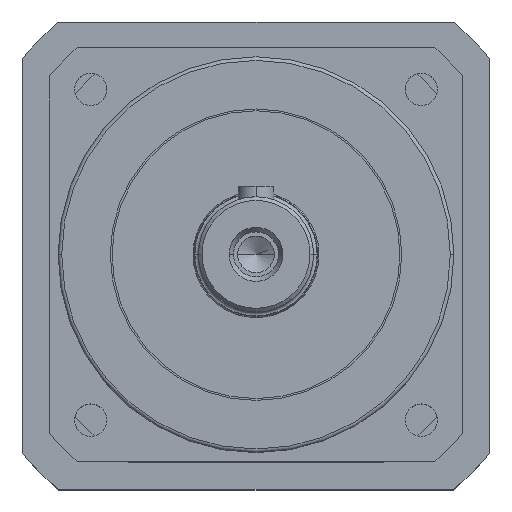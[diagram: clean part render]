
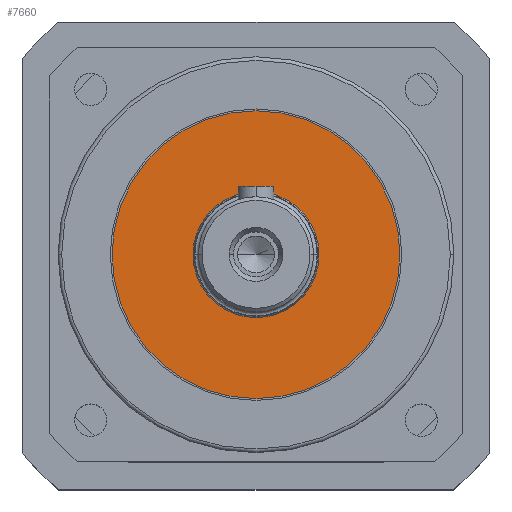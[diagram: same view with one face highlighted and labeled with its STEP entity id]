
A CAD part, top view. The second image highlights one B-rep face of the part: STEP entity #7660.
In plain terms, the highlighted planar face has unit normal (0, 0, 1).
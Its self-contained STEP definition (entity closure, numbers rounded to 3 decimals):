
#1671 = PLANE ( 'NONE',  #31722 ) ;
#2865 = DIRECTION ( 'NONE',  ( 0., 0., 1. ) ) ;
#3655 = ORIENTED_EDGE ( 'NONE', *, *, #9613, .F. ) ;
#6670 = VERTEX_POINT ( 'NONE', #43594 ) ;
#6903 = AXIS2_PLACEMENT_3D ( 'NONE', #34634, #25463, #19384 ) ;
#7660 = ADVANCED_FACE ( 'NONE', ( #49186, #43706 ), #1671, .T. ) ;
#9484 = VERTEX_POINT ( 'NONE', #17298 ) ;
#9613 = EDGE_CURVE ( 'NONE', #6670, #9484, #20567, .T. ) ;
#11742 = ORIENTED_EDGE ( 'NONE', *, *, #26707, .T. ) ;
#12607 = EDGE_CURVE ( 'NONE', #9484, #6670, #44812, .T. ) ;
#12841 = CIRCLE ( 'NONE', #20646, 40. ) ;
#14756 = CARTESIAN_POINT ( 'NONE',  ( 42.612, 1.959, 259.364 ) ) ;
#15814 = ORIENTED_EDGE ( 'NONE', *, *, #12607, .F. ) ;
#16403 = VERTEX_POINT ( 'NONE', #27736 ) ;
#16571 = EDGE_LOOP ( 'NONE', ( #53331, #11742 ) ) ;
#17298 = CARTESIAN_POINT ( 'NONE',  ( 20.112, 1.959, 259.364 ) ) ;
#19384 = DIRECTION ( 'NONE',  ( 1., 0., 0. ) ) ;
#20567 = CIRCLE ( 'NONE', #6903, 17.5 ) ;
#20646 = AXIS2_PLACEMENT_3D ( 'NONE', #24060, #24346, #42926 ) ;
#20891 = DIRECTION ( 'NONE',  ( 1., 0., 0. ) ) ;
#24060 = CARTESIAN_POINT ( 'NONE',  ( 2.612, 1.959, 259.364 ) ) ;
#24346 = DIRECTION ( 'NONE',  ( 0., 0., 1. ) ) ;
#25463 = DIRECTION ( 'NONE',  ( 0., 0., 1. ) ) ;
#26707 = EDGE_CURVE ( 'NONE', #16403, #32401, #44835, .T. ) ;
#27736 = CARTESIAN_POINT ( 'NONE',  ( -37.388, 1.959, 259.364 ) ) ;
#29224 = EDGE_LOOP ( 'NONE', ( #3655, #15814 ) ) ;
#31722 = AXIS2_PLACEMENT_3D ( 'NONE', #48871, #2865, #20891 ) ;
#32232 = AXIS2_PLACEMENT_3D ( 'NONE', #38787, #52221, #47610 ) ;
#32401 = VERTEX_POINT ( 'NONE', #14756 ) ;
#34634 = CARTESIAN_POINT ( 'NONE',  ( 2.612, 1.959, 259.364 ) ) ;
#34709 = EDGE_CURVE ( 'NONE', #32401, #16403, #12841, .T. ) ;
#38711 = CARTESIAN_POINT ( 'NONE',  ( 2.612, 1.959, 259.364 ) ) ;
#38787 = CARTESIAN_POINT ( 'NONE',  ( 2.612, 1.959, 259.364 ) ) ;
#42384 = DIRECTION ( 'NONE',  ( 1., 0., 0. ) ) ;
#42677 = DIRECTION ( 'NONE',  ( 0., 0., 1. ) ) ;
#42926 = DIRECTION ( 'NONE',  ( 1., 0., 0. ) ) ;
#43594 = CARTESIAN_POINT ( 'NONE',  ( -14.888, 1.959, 259.364 ) ) ;
#43706 = FACE_BOUND ( 'NONE', #29224, .T. ) ;
#44812 = CIRCLE ( 'NONE', #52610, 17.5 ) ;
#44835 = CIRCLE ( 'NONE', #32232, 40. ) ;
#47610 = DIRECTION ( 'NONE',  ( 1., 0., 0. ) ) ;
#48871 = CARTESIAN_POINT ( 'NONE',  ( 2.612, 1.959, 259.364 ) ) ;
#49186 = FACE_OUTER_BOUND ( 'NONE', #16571, .T. ) ;
#52221 = DIRECTION ( 'NONE',  ( 0., 0., 1. ) ) ;
#52610 = AXIS2_PLACEMENT_3D ( 'NONE', #38711, #42677, #42384 ) ;
#53331 = ORIENTED_EDGE ( 'NONE', *, *, #34709, .T. ) ;
